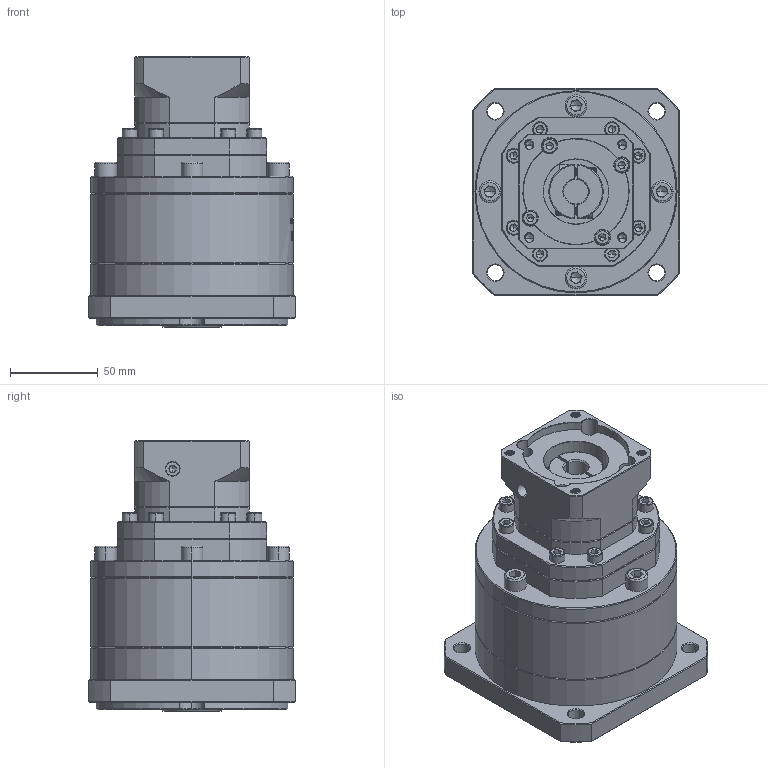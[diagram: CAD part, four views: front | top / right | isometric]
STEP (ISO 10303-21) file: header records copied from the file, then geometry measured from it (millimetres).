
FILE_DESCRIPTION (( 'STEP AP214' ), '1' );
FILE_NAME ('ZF120A-K25-L3-14-60-75-M6.step', '2023-03-07T15:57:14', ( '' ), ( 'Microsoft' ), 'SwSTEP 2.0', 'SolidWorks 2016', '' );
FILE_SCHEMA (( 'AUTOMOTIVE_DESIGN' ));
Length unit declared in the file: millimetre
Products named in the file (1): ZF120A-K25-L3-14-60-75-M6
Bounding box: 118 x 118 x 154 mm (x, y, z)
Volume: 1161238.2 mm3; surface area: 114093.7 mm2
Topology: 7 solids, 7 shells, 2031 faces, 5349 edges, 3417 vertices
Faces by surface type: plane 995, cylinder 389, bspline 328, cone 297, torus 22
Entity records: 104216 total; most frequent: CARTESIAN_POINT 35181, ORIENTED_EDGE 10594, DIRECTION 8456, EDGE_CURVE 5297, VERTEX_POINT 3417, VECTOR 2944, LINE 2944, AXIS2_PLACEMENT_3D 2756
